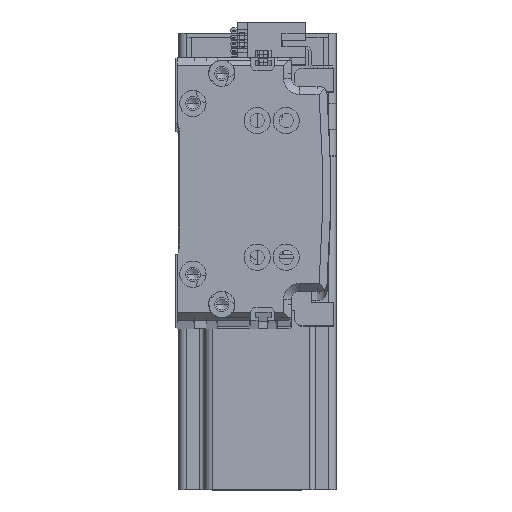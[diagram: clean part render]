
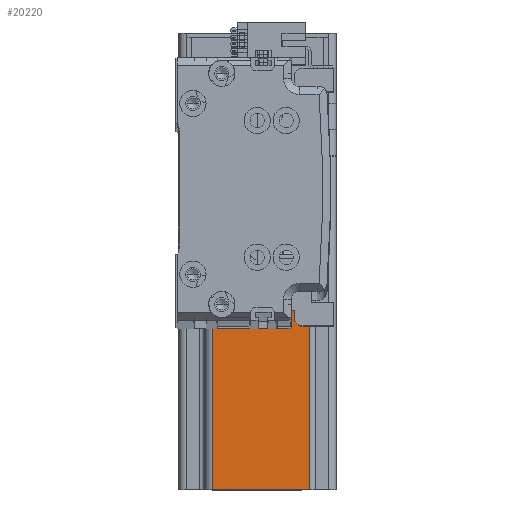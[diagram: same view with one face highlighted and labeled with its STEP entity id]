
A CAD part, top view. The second image highlights one B-rep face of the part: STEP entity #20220.
In plain terms, the highlighted planar face has unit normal (0, 0, 1) as drawn and (-1, 0, 0) by its records, which use the part's own axes.
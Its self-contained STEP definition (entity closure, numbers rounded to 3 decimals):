
#438 = VERTEX_POINT ( 'NONE', #64082 ) ;
#778 = VERTEX_POINT ( 'NONE', #7359 ) ;
#1333 = EDGE_CURVE ( 'NONE', #51285, #778, #2557, .T. ) ;
#2557 = LINE ( 'NONE', #21280, #14258 ) ;
#3041 = ORIENTED_EDGE ( 'NONE', *, *, #45975, .T. ) ;
#4082 = CARTESIAN_POINT ( 'NONE',  ( -30., 27., 10. ) ) ;
#4102 = EDGE_CURVE ( 'NONE', #19426, #64189, #41104, .T. ) ;
#6425 = LINE ( 'NONE', #27664, #18107 ) ;
#7110 = DIRECTION ( 'NONE',  ( 0., 0., 1. ) ) ;
#7359 = CARTESIAN_POINT ( 'NONE',  ( -30., 20., 137. ) ) ;
#8189 = VECTOR ( 'NONE', #18350, 1000. ) ;
#10490 = ORIENTED_EDGE ( 'NONE', *, *, #1333, .F. ) ;
#11132 = CARTESIAN_POINT ( 'NONE',  ( -30., -27., 10. ) ) ;
#11505 = CARTESIAN_POINT ( 'NONE',  ( -30., -17., 10. ) ) ;
#11749 = VECTOR ( 'NONE', #31873, 1000. ) ;
#13305 = LINE ( 'NONE', #41899, #11749 ) ;
#14258 = VECTOR ( 'NONE', #7110, 1000. ) ;
#17509 = VERTEX_POINT ( 'NONE', #11505 ) ;
#17985 = CARTESIAN_POINT ( 'NONE',  ( -30., 27., 137. ) ) ;
#18107 = VECTOR ( 'NONE', #62589, 1000. ) ;
#18350 = DIRECTION ( 'NONE',  ( 0., 0., 1. ) ) ;
#19426 = VERTEX_POINT ( 'NONE', #4082 ) ;
#19683 = ORIENTED_EDGE ( 'NONE', *, *, #27807, .T. ) ;
#19995 = AXIS2_PLACEMENT_3D ( 'NONE', #25333, #60316, #30430 ) ;
#20100 = DIRECTION ( 'NONE',  ( 0., -1., 0. ) ) ;
#20201 = EDGE_CURVE ( 'NONE', #17509, #20840, #29404, .T. ) ;
#20220 = ADVANCED_FACE ( 'NONE', ( #41115 ), #25117, .F. ) ;
#20404 = EDGE_CURVE ( 'NONE', #64189, #438, #54293, .T. ) ;
#20840 = VERTEX_POINT ( 'NONE', #11132 ) ;
#21280 = CARTESIAN_POINT ( 'NONE',  ( -30., 20., 10. ) ) ;
#21691 = ORIENTED_EDGE ( 'NONE', *, *, #20201, .F. ) ;
#25117 = PLANE ( 'NONE',  #19995 ) ;
#25333 = CARTESIAN_POINT ( 'NONE',  ( -30., -30., 137. ) ) ;
#26324 = VECTOR ( 'NONE', #56519, 1000. ) ;
#27664 = CARTESIAN_POINT ( 'NONE',  ( -30., -30., 137. ) ) ;
#27759 = VECTOR ( 'NONE', #62696, 1000. ) ;
#27807 = EDGE_CURVE ( 'NONE', #51285, #19426, #13305, .T. ) ;
#29404 = LINE ( 'NONE', #45045, #54354 ) ;
#30430 = DIRECTION ( 'NONE',  ( 0., 0., -1. ) ) ;
#31873 = DIRECTION ( 'NONE',  ( 0., 1., 0. ) ) ;
#32146 = CARTESIAN_POINT ( 'NONE',  ( -30., -17., 137. ) ) ;
#32610 = EDGE_LOOP ( 'NONE', ( #21691, #40446, #55506, #10490, #19683, #33162, #47558, #3041 ) ) ;
#33162 = ORIENTED_EDGE ( 'NONE', *, *, #4102, .T. ) ;
#34758 = LINE ( 'NONE', #43102, #8189 ) ;
#37778 = CARTESIAN_POINT ( 'NONE',  ( -30., -30., 0. ) ) ;
#37858 = DIRECTION ( 'NONE',  ( 0., 0., -1. ) ) ;
#37924 = EDGE_CURVE ( 'NONE', #778, #48283, #6425, .T. ) ;
#38251 = CARTESIAN_POINT ( 'NONE',  ( -30., 27., 0. ) ) ;
#40018 = CARTESIAN_POINT ( 'NONE',  ( -30., 20., 10. ) ) ;
#40446 = ORIENTED_EDGE ( 'NONE', *, *, #48857, .T. ) ;
#41104 = LINE ( 'NONE', #17985, #54347 ) ;
#41115 = FACE_OUTER_BOUND ( 'NONE', #32610, .T. ) ;
#41460 = CARTESIAN_POINT ( 'NONE',  ( -30., -17., 137. ) ) ;
#41899 = CARTESIAN_POINT ( 'NONE',  ( -30., 30., 10. ) ) ;
#43102 = CARTESIAN_POINT ( 'NONE',  ( -30., -27., 137. ) ) ;
#45045 = CARTESIAN_POINT ( 'NONE',  ( -30., -30., 10. ) ) ;
#45975 = EDGE_CURVE ( 'NONE', #438, #20840, #34758, .T. ) ;
#47558 = ORIENTED_EDGE ( 'NONE', *, *, #20404, .T. ) ;
#48283 = VERTEX_POINT ( 'NONE', #32146 ) ;
#48857 = EDGE_CURVE ( 'NONE', #17509, #48283, #52883, .T. ) ;
#51285 = VERTEX_POINT ( 'NONE', #40018 ) ;
#52883 = LINE ( 'NONE', #41460, #26324 ) ;
#54293 = LINE ( 'NONE', #37778, #27759 ) ;
#54347 = VECTOR ( 'NONE', #37858, 1000. ) ;
#54354 = VECTOR ( 'NONE', #20100, 1000. ) ;
#55506 = ORIENTED_EDGE ( 'NONE', *, *, #37924, .F. ) ;
#56519 = DIRECTION ( 'NONE',  ( 0., 0., 1. ) ) ;
#60316 = DIRECTION ( 'NONE',  ( 1., 0., 0. ) ) ;
#62589 = DIRECTION ( 'NONE',  ( 0., -1., 0. ) ) ;
#62696 = DIRECTION ( 'NONE',  ( 0., -1., 0. ) ) ;
#64082 = CARTESIAN_POINT ( 'NONE',  ( -30., -27., 0. ) ) ;
#64189 = VERTEX_POINT ( 'NONE', #38251 ) ;
